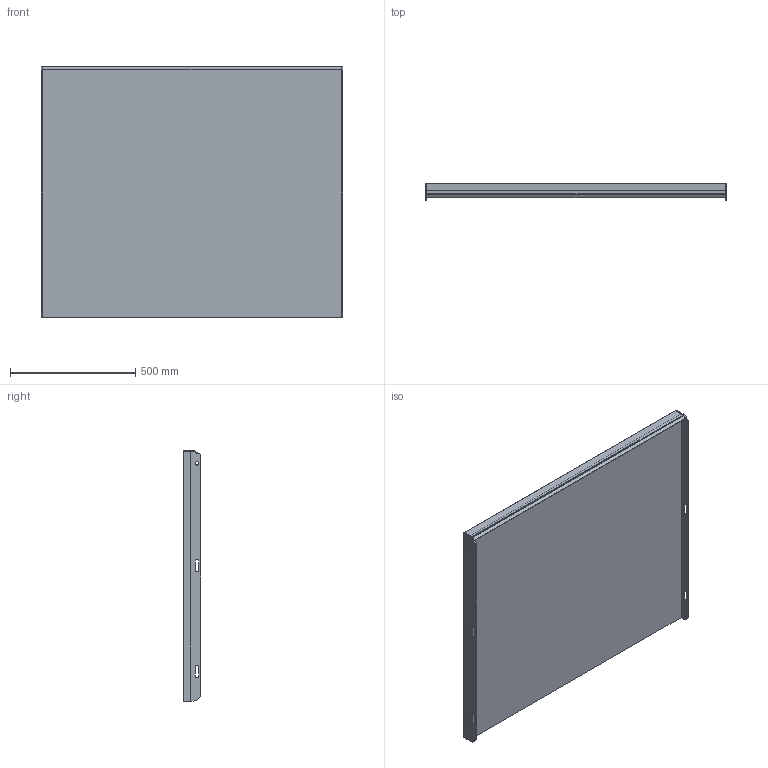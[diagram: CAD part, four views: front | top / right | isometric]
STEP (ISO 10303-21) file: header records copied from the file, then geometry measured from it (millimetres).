
FILE_DESCRIPTION (( 'STEP AP203' ), '1' );
FILE_NAME ('148812101, Plan TH6, 1200x1000, vfz.STEP', '2020-10-21T13:15:15', ( '' ), ( '' ), 'SwSTEP 2.0', 'SolidWorks 2019', '' );
FILE_SCHEMA (( 'CONFIG_CONTROL_DESIGN' ));
Length unit declared in the file: millimetre
Products named in the file (4): SW0000041793; SW0000041407; SW0000041753; 148812101, Plan TH6, 1200x1000, vfz
Assembly tree (4 placements, depth 2):
  148812101, Plan TH6, 1200x1000, vfz
    SW0000041793
    SW0000041407  x2
    SW0000041753
Bounding box: 1200 x 70 x 997 mm (x, y, z)
Volume: 36227800.9 mm3; surface area: 2942057.8 mm2
Topology: 4 solids, 4 shells, 69 faces, 172 edges, 112 vertices
Faces by surface type: plane 49, cylinder 20
Entity records: 1868 total; most frequent: DIRECTION 252, CARTESIAN_POINT 250, ORIENTED_EDGE 236, EDGE_CURVE 118, LINE 96, VECTOR 96, AXIS2_PLACEMENT_3D 78, VERTEX_POINT 76
